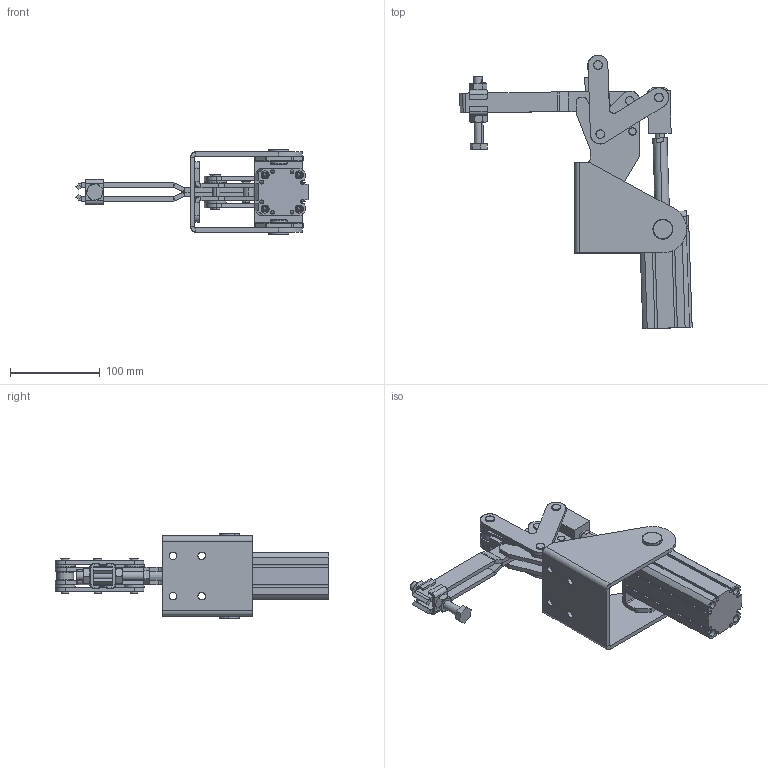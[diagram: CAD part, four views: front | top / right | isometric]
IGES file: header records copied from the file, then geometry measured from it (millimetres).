
Start section: SolidWorks IGES file using analytic representation for surfaces
Global section: file name: C:\Projetos\Grampos\KF-411 P\KF-411 DB P\KF-411 DB P.IGS; native system: SolidWorks 2013; preprocessor: SolidWorks 2013; author: Ricardo; date: 140828.163506; units: millimetre
Bounding box: 258.94 x 305.16 x 95.5 mm (x, y, z)
Surface area: 258314.3 mm2 (no closed solid volume)
Topology: 0 solids, 0 shells, 792 faces, 12624 edges, 12608 vertices
Faces by surface type: revolution 448, bspline 344
